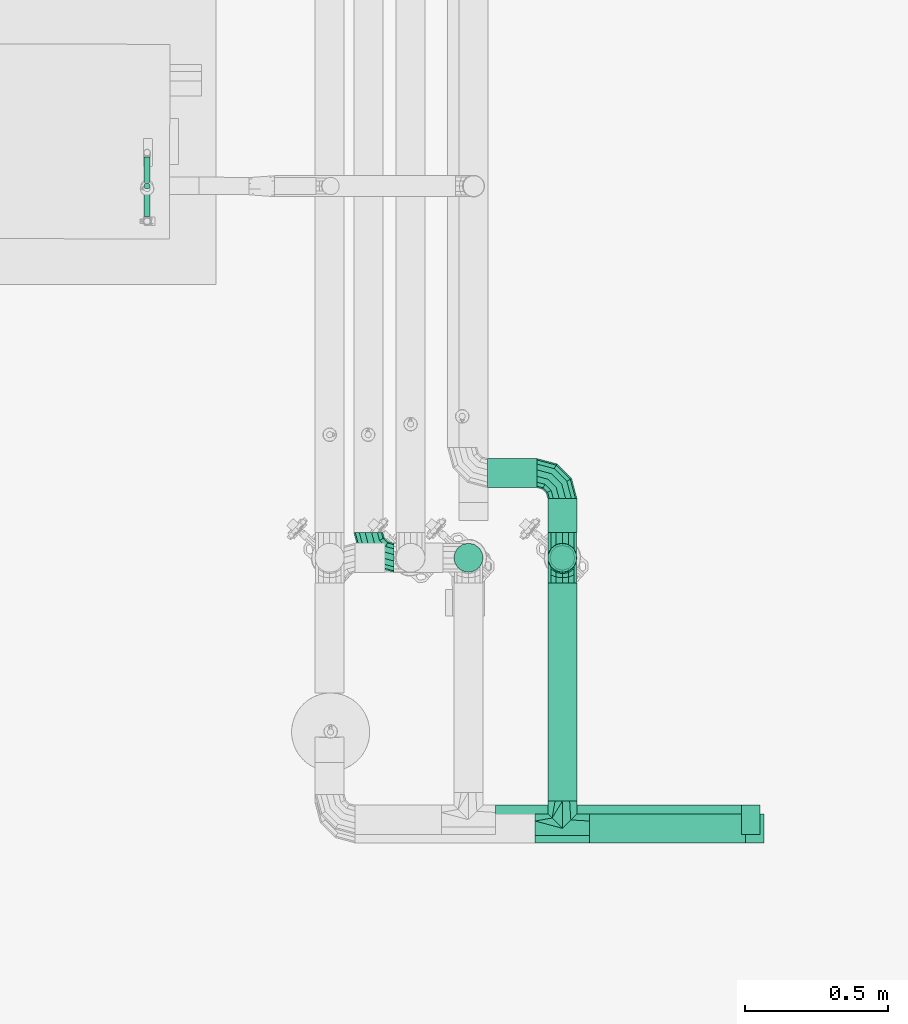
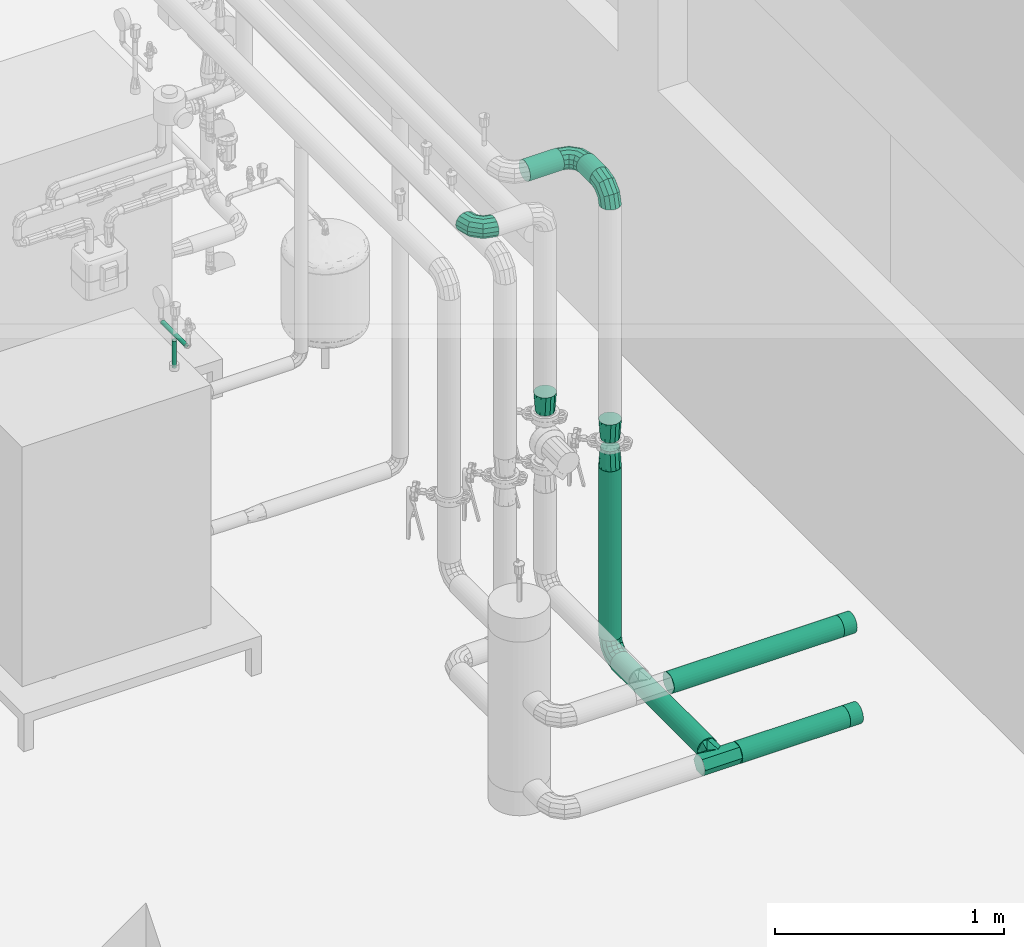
# One storey, part 12 of 43: 10 flow fittings, 8 flow segments.
"""IFC2X3 building model written with IfcOpenShell, lengths in millimetres."""

from ifc_helpers import new_model, entity, si_unit, converted_unit, derived_unit, direction, frame, frame_2d, origin, origin_2d_with_axis, place, context, subcontext, project, spatial, circle, extrude, faceted_brep, source, transform, mapped, material, material_list, type_object, type_shapes, element, save


model = new_model("IFC2X3")

# Units and contexts
model_context = context("Model", 3, precision=0.01, world=origin(), true_north=direction((6.123031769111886e-17, 1.0)))
body_context = subcontext(model_context, "Body", "Model", "MODEL_VIEW")
ifc_project = project(units=[si_unit("LENGTHUNIT", "METRE", prefix="MILLI"), si_unit("AREAUNIT", "SQUARE_METRE"), si_unit("VOLUMEUNIT", "CUBIC_METRE"), converted_unit("PLANEANGLEUNIT", "DEGREE", entity("IfcRatioMeasure", 0.017453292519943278), si_unit("PLANEANGLEUNIT", "RADIAN"), dimensions=[0, 0, 0, 0, 0, 0, 0]), si_unit("MASSUNIT", "GRAM", prefix="KILO"), derived_unit("MASSDENSITYUNIT", [(si_unit("MASSUNIT", "GRAM", prefix="KILO"), 1), (si_unit("LENGTHUNIT", "METRE"), -3)]), derived_unit("MOMENTOFINERTIAUNIT", [(si_unit("LENGTHUNIT", "METRE"), 4)]), si_unit("TIMEUNIT", "SECOND"), si_unit("FREQUENCYUNIT", "HERTZ"), si_unit("THERMODYNAMICTEMPERATUREUNIT", "DEGREE_CELSIUS"), derived_unit("THERMALTRANSMITTANCEUNIT", [(si_unit("MASSUNIT", "GRAM", prefix="KILO"), 1), (si_unit("THERMODYNAMICTEMPERATUREUNIT", "KELVIN"), -1), (si_unit("TIMEUNIT", "SECOND"), -3)]), derived_unit("VOLUMETRICFLOWRATEUNIT", [(si_unit("LENGTHUNIT", "METRE"), 3), (si_unit("TIMEUNIT", "SECOND"), -1)]), derived_unit("MASSFLOWRATEUNIT", [(si_unit("MASSUNIT", "GRAM", prefix="KILO"), 1), (si_unit("TIMEUNIT", "SECOND"), -1)]), derived_unit("ROTATIONALFREQUENCYUNIT", [(si_unit("TIMEUNIT", "SECOND"), -1)]), si_unit("ELECTRICCURRENTUNIT", "AMPERE"), si_unit("ELECTRICVOLTAGEUNIT", "VOLT"), si_unit("POWERUNIT", "WATT"), si_unit("FORCEUNIT", "NEWTON", prefix="KILO"), si_unit("ILLUMINANCEUNIT", "LUX"), si_unit("LUMINOUSFLUXUNIT", "LUMEN"), si_unit("LUMINOUSINTENSITYUNIT", "CANDELA"), derived_unit("USERDEFINED", [(si_unit("MASSUNIT", "GRAM", prefix="KILO"), -1), (si_unit("LENGTHUNIT", "METRE"), -2), (si_unit("TIMEUNIT", "SECOND"), 3), (si_unit("LUMINOUSFLUXUNIT", "LUMEN"), 1)]), derived_unit("SOUNDPOWERUNIT", [(si_unit("MASSUNIT", "GRAM", prefix="KILO"), 1), (si_unit("LENGTHUNIT", "METRE"), 2), (si_unit("TIMEUNIT", "SECOND"), -3)]), derived_unit("SOUNDPRESSUREUNIT", [(si_unit("MASSUNIT", "GRAM", prefix="KILO"), 1), (si_unit("LENGTHUNIT", "METRE"), -1), (si_unit("TIMEUNIT", "SECOND"), -2)]), derived_unit("LINEARVELOCITYUNIT", [(si_unit("LENGTHUNIT", "METRE"), 1), (si_unit("TIMEUNIT", "SECOND"), -1)]), si_unit("PRESSUREUNIT", "PASCAL"), derived_unit("USERDEFINED", [(si_unit("LENGTHUNIT", "METRE"), -2), (si_unit("MASSUNIT", "GRAM", prefix="KILO"), 1), (si_unit("TIMEUNIT", "SECOND"), -2)]), derived_unit("LINEARFORCEUNIT", [(si_unit("MASSUNIT", "GRAM", prefix="KILO"), 1), (si_unit("LENGTHUNIT", "METRE"), 1), (si_unit("TIMEUNIT", "SECOND"), -2), (si_unit("LENGTHUNIT", "METRE"), -1)]), derived_unit("PLANARFORCEUNIT", [(si_unit("MASSUNIT", "GRAM", prefix="KILO"), 1), (si_unit("LENGTHUNIT", "METRE"), 1), (si_unit("TIMEUNIT", "SECOND"), -2), (si_unit("LENGTHUNIT", "METRE"), -2)])], contexts=[model_context])

# Site, building, storey
site_placement = place(None, origin())
site = spatial("IfcSite", under=ifc_project, at=site_placement, Name="Default", CompositionType="ELEMENT")
building_placement = place(site_placement, origin())
building = spatial("IfcBuilding", under=site, at=building_placement, CompositionType="ELEMENT")
storey_placement = place(building_placement, frame((0.0, 0.0, 270.0)))
storey = spatial("IfcBuildingStorey", under=building, at=storey_placement, Name="Niveau 0", CompositionType="ELEMENT", Elevation=270.0)

# Flow segments
pipe_segment_type = type_object("IfcPipeSegmentType", Name="Canalisation:tube acier", PredefinedType="NOTDEFINED")
flow_segment_1_placement = place(storey_placement, origin())
element("IfcFlowSegment", 1, at=flow_segment_1_placement, inside=storey, type_object=pipe_segment_type, Name="Canalisation:tube acier", ObjectType="Canalisation:tube acier", context=body_context, shape_type="SweptSolid", body=[
    extrude(circle(Radius=50.8, at=frame_2d((2.707167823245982e-13, -6.767919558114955e-14), x_axis=(1.0, 0.0))), frame((-1690.0, -13680.499999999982, 271.98835868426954), z_axis=(0.0, 1.0, 0.0), x_axis=(1.0, 0.0, 0.0)), (0.0, 0.0, 1.0), 761.4999999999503),
])
flow_segment_2_placement = place(storey_placement, origin())
element("IfcFlowSegment", 2, at=flow_segment_2_placement, inside=storey, type_object=pipe_segment_type, Name="Canalisation:tube acier", ObjectType="Canalisation:tube acier", context=body_context, shape_type="SweptSolid", body=[
    extrude(circle(Radius=50.8, at=frame_2d((0.0, -6.767919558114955e-14), x_axis=(1.0, 0.0))), frame((-1595.000057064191, -13775.499999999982, 272.09248448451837), z_axis=(1.0, 0.0, 0.0), x_axis=(0.0, 1.0, 0.0)), (0.0, 0.0, 1.0), 545.5060507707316),
])
flow_segment_3_placement = place(storey_placement, origin())
element("IfcFlowSegment", 3, at=flow_segment_3_placement, inside=storey, type_object=pipe_segment_type, Name="Canalisation:tube acier", ObjectType="Canalisation:tube acier", context=body_context, shape_type="SweptSolid", body=[
    extrude(circle(Radius=50.8, at=frame_2d((0.0, -5.414335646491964e-13), x_axis=(1.0, 0.0))), frame((-1951.0, -12534.056656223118, 2751.9883586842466), z_axis=(1.0, 0.0, 0.0), x_axis=(0.0, -1.0, 0.0)), (0.0, 0.0, 1.0), 172.0000000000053),
])
flow_segment_4_placement = place(storey_placement, origin())
element("IfcFlowSegment", 4, at=flow_segment_4_placement, inside=storey, type_object=pipe_segment_type, Name="Canalisation:tube acier", ObjectType="Canalisation:tube acier", context=body_context, shape_type="SweptSolid", body=[
    extrude(circle(Radius=50.8, at=frame_2d((1.1370104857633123e-11, 0.0), x_axis=(1.0, 0.0))), frame((-1690.0, -12741.0, 2751.988358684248), z_axis=(0.0, 1.0, 0.0), x_axis=(-1.0, 0.0, 0.0)), (0.0, 0.0, 1.0), 117.94334377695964),
])
flow_segment_5_placement = place(storey_placement, origin())
element("IfcFlowSegment", 5, at=flow_segment_5_placement, inside=storey, type_object=pipe_segment_type, Name="Canalisation:tube acier", ObjectType="Canalisation:tube acier", context=body_context, shape_type="SweptSolid", body=[
    extrude(circle(Radius=50.8, at=frame_2d((0.0, -1.3536882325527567e-13), x_axis=(1.0, 0.0))), frame((-1063.2631800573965, -13745.499999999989, 741.8842328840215), z_axis=(-0.9999999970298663, 0.0, 7.707313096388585e-05), x_axis=(0.0, -1.0, 0.0)), (0.0, 0.0, 1.0), 860.0000028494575),
])
flow_segment_6_placement = place(storey_placement, origin())
element("IfcFlowSegment", 6, at=flow_segment_6_placement, inside=storey, type_object=pipe_segment_type, Name="Canalisation:tube acier", ObjectType="Canalisation:tube acier", context=body_context, shape_type="SweptSolid", body=[
    extrude(circle(Radius=10.668, at=origin_2d_with_axis()), frame((-3141.4762481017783, -11531.487266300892, 1511.2896512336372)), (0.0, 0.0, 1.0), 143.77838555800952),
])
flow_segment_7_placement = place(storey_placement, origin())
element("IfcFlowSegment", 7, at=flow_segment_7_placement, inside=storey, type_object=pipe_segment_type, Name="Canalisation:tube acier", ObjectType="Canalisation:tube acier", context=body_context, shape_type="SweptSolid", body=[
    extrude(circle(Radius=10.668, at=frame_2d((1.6243006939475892e-12, 0.0), x_axis=(1.0, 0.0))), frame((-3141.4359306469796, -11638.159089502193, 1690.7360367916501), z_axis=(0.0, 1.0, 0.0), x_axis=(-1.0, 0.0, 0.0)), (0.0, 0.0, 1.0), 208.18203125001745),
])
flow_segment_8_placement = place(storey_placement, origin())
element("IfcFlowSegment", 8, at=flow_segment_8_placement, inside=storey, type_object=pipe_segment_type, Name="Canalisation:tube acier", ObjectType="Canalisation:tube acier", context=body_context, shape_type="SweptSolid", body=[
    extrude(circle(Radius=50.8, at=frame_2d((2.707167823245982e-13, 0.0), x_axis=(1.0, 0.0))), frame((-1690.0, -12830.0, 360.9883586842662), z_axis=(0.0, 0.0, 1.0), x_axis=(-1.0, 0.0, 0.0)), (0.0, 0.0, 1.0), 904.5116413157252),
])

# Flow fittings
ifc_material = material(Name="<Unnamed>")
pipe_fitting_type_1 = type_object("IfcPipeFittingType", Name="Chapeau - Générique:Standard", PredefinedType="NOTDEFINED", material=ifc_material)
shared_shape_1 = source(origin(), body_context, "Body", "SweptSolid", [
    extrude(circle(Radius=50.8, at=frame_2d((0.0, -8.206966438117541e-14), x_axis=(1.0, 0.0))), frame((0.0, 0.0, 0.0), z_axis=(1.0, 0.0, 0.0), x_axis=(0.0, 1.0, 0.0)), (0.0, 0.0, 1.0), 64.0),
])
type_shapes(pipe_fitting_type_1, [shared_shape_1])
for number, where in (
    (9, (-1049.4940062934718, -13775.499999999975, 272.2587622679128)),
    (10, (-1063.2631800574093, -13745.499999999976, 741.8842328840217)),
):
    element("IfcFlowFitting", number, at=place(storey_placement, frame(where)), inside=storey, type_object=pipe_fitting_type_1, material=ifc_material, Name="Chapeau - Générique:Standard", ObjectType="Chapeau - Générique:Standard", context=body_context, shape_type="MappedRepresentation", body=[
        mapped(shared_shape_1, transform((0.0, 0.0, 0.0), scale=1.0)),
    ])
pipe_fitting_type_2 = type_object("IfcPipeFittingType", Name="Té - Générique:Standard", PredefinedType="NOTDEFINED", material=ifc_material)
shared_shape_2 = source(origin(), body_context, "Body", "Brep", [
    faceted_brep([(-95.0, -50.80000000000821, 0.0), (-95.0, -42.857433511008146, 13.756928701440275), (-95.0, -38.100000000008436, 21.997045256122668), (-95.0, -25.400000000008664, 43.994090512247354), (-95.0, 0.0, 43.994090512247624), (-95.0, 25.399999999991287, 43.9940905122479), (-95.0, 38.09999999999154, 21.997045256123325), (-95.0, 50.79999999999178, 0.0), (-95.0, 34.91486667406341, -27.513858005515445), (-95.0, 25.399999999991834, -43.994090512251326), (-95.0, 0.0, -43.99409051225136), (-95.0, -25.40000000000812, -43.994090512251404), (-95.0, -38.100000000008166, -21.997045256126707), (95.0, -42.8574338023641, -13.756928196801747), (95.0, -38.10000000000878, -21.997045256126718), (95.0, -25.40000000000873, -43.994090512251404), (95.0, 0.0, -43.99409051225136), (95.0, 25.399999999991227, -43.994090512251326), (95.0, 38.099999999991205, -21.997045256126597), (95.0, 50.79999999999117, 0.0), (95.0, 34.914867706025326, 27.513856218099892), (95.0, 25.399999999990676, 43.9940905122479), (95.0, 0.0, 43.994090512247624), (95.0, -25.40000000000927, 43.994090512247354), (95.0, -38.10000000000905, 21.99704525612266), (95.0, -50.80000000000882, 0.0), (43.39269796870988, -43.39269796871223, 17.928268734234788), (35.985395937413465, -35.985395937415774, 35.856537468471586), (0.0, 0.0, 50.79999999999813), (-36.22103848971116, -36.22103848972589, 28.26809021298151), (-29.453595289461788, -29.45359528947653, 41.38992298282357), (50.8000000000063, -50.80000000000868, 0.0), (-50.799999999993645, -50.80000000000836, 0.0), (-43.5105192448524, -43.51051924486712, 14.134045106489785), (-40.126797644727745, -40.126797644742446, 20.69496149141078), (36.2210385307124, -36.221038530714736, -28.268090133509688), (-43.39269796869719, -43.39269796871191, -17.92826873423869), (0.0, 0.0, -50.800000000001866), (-35.985395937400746, -35.98539593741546, -35.856537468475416), (43.51051926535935, -43.51051926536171, -14.13404506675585), (40.126797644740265, -40.1267976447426, -20.69496149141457), (29.453595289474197, -29.453595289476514, -41.389922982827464), (25.40000000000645, -95.0, -43.994090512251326), (34.91486744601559, -95.0, -27.513856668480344), (50.800000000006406, -95.0, 0.0), (38.10000000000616, -95.0, 21.99704525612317), (25.4000000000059, -95.0, 43.9940905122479), (0.0, -95.0, 43.994090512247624), (-25.399999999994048, -95.0, 43.994090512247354), (-34.91486766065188, -95.0, 27.513856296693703), (-50.799999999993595, -95.0, 0.0), (-38.09999999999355, -95.0, -21.997045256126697), (-25.399999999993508, -95.0, -43.994090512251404), (0.0, -95.0, -43.99409051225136)], [[[0, 1, 2, 3, 4, 5, 6, 7, 8, 9, 10, 11, 12]], [[13, 14, 15, 16, 17, 18, 19, 20, 21, 22, 23, 24, 25]], [[24, 26, 25]], [[24, 27, 26]], [[27, 24, 23]], [[28, 23, 22, 21]], [[3, 29, 30]], [[25, 26, 31]], [[0, 32, 1]], [[2, 1, 33]], [[23, 28, 27]], [[19, 7, 6, 5, 21, 20]], [[3, 28, 5, 4]], [[3, 30, 28]], [[1, 32, 33]], [[5, 28, 21]], [[2, 33, 34, 29]], [[29, 3, 2]], [[17, 9, 8, 7, 19, 18]], [[35, 15, 14]], [[0, 36, 32]], [[9, 17, 37]], [[12, 38, 36]], [[10, 9, 37, 11]], [[14, 39, 40, 35]], [[37, 17, 16, 15]], [[31, 13, 25]], [[13, 31, 39]], [[35, 41, 15]], [[38, 11, 37]], [[12, 36, 0]], [[14, 13, 39]], [[38, 12, 11]], [[15, 41, 37]], [[42, 43, 44, 45, 46, 47, 48, 49, 50, 51, 52, 53]], [[30, 49, 48]], [[50, 49, 34]], [[50, 34, 33, 32]], [[30, 48, 47]], [[27, 46, 45]], [[31, 45, 44]], [[49, 30, 29, 34]], [[30, 47, 28]], [[45, 31, 26, 27]], [[47, 46, 27]], [[47, 27, 28]], [[41, 43, 42]], [[53, 38, 37]], [[43, 41, 35, 40]], [[44, 40, 39, 31]], [[41, 42, 53]], [[32, 51, 50]], [[44, 43, 40]], [[38, 52, 51]], [[41, 53, 37]], [[51, 32, 36, 38]], [[53, 52, 38]]]),
])
type_shapes(pipe_fitting_type_2, [shared_shape_2])
flow_fitting_placement = place(storey_placement, frame((-1690.0, -13775.5, 271.98835868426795), z_axis=(0.0010960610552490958, 0.0, -0.9999993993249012), x_axis=(0.9999993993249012, 0.0, 0.0010960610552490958)))
element("IfcFlowFitting", 11, at=flow_fitting_placement, inside=storey, type_object=pipe_fitting_type_2, material=ifc_material, Name="Té - Générique:Standard", ObjectType="Té - Générique:Standard", context=body_context, shape_type="MappedRepresentation", body=[
    mapped(shared_shape_2, transform((0.0, 0.0, 0.0), scale=1.0)),
])
ifc_material_list = material_list([ifc_material, ifc_material])
pipe_fitting_type_3 = type_object("IfcPipeFittingType", Name="Coude - Générique:Standard", PredefinedType="NOTDEFINED", material=ifc_material_list)
shared_shape_3 = source(origin(), body_context, "Body", "Brep", [
    faceted_brep([(32.07035144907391, 19.099999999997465, 0.0), (27.713566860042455, 21.615390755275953, -22.04129394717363), (45.76921848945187, 89.0, -22.04129394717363), (50.80000000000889, 89.0, 0.0), (15.506127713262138, 28.663359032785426, -39.71703930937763), (31.67328193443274, 89.0, -39.71703930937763), (-2.1341329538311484, 38.84796827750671, -49.52633793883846), (11.304063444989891, 89.0, -49.52633793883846), (-21.713345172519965, 50.15203172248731, -49.526337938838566), (-11.304063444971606, 89.0, -49.526337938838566), (-39.35360583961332, 60.33664096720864, -39.71703930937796), (-31.67328193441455, 89.0, -39.71703930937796), (-51.56104498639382, 67.3846092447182, -22.041293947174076), (-45.769218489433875, 89.0, -22.041293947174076), (-55.91782957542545, 69.89999999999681, 0.0), (-50.79999999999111, 89.0, 0.0), (-51.56104498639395, 67.38460924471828, 22.041293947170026), (-45.76921848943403, 89.0, 22.041293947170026), (-39.35360583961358, 60.33664096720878, 39.71703930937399), (-31.673281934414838, 89.0, 39.71703930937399), (-21.713345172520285, 50.15203172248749, 49.52633793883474), (-11.304063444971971, 89.0, 49.52633793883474), (-2.134132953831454, 38.84796827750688, 49.52633793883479), (11.304063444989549, 89.0, 49.52633793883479), (15.506127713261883, 28.663359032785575, 39.71703930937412), (31.673281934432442, 89.0, 39.71703930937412), (27.713566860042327, 21.615390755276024, 22.04129394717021), (45.76921848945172, 89.0, 22.04129394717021), (-19.099999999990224, -32.07035144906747, 0.0), (-21.61539075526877, -27.713566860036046, -22.04129394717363), (-28.663359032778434, -15.506127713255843, -39.71703930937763), (-38.847968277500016, 2.1341329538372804, -49.52633793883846), (-50.15203172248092, 21.71334517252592, -49.526337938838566), (-60.33664096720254, 39.35360583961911, -39.71703930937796), (-67.38460924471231, 51.56104498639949, -22.041293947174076), (-69.89999999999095, 55.91782957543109, 0.0), (-67.3846092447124, 51.56104498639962, 22.041293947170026), (-60.33664096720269, 39.353605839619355, 39.71703930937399), (-50.152031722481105, 21.71334517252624, 49.52633793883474), (-38.84796827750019, 2.134132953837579, 49.52633793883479), (-28.663359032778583, -15.506127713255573, 39.71703930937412), (-21.61539075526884, -27.713566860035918, 22.04129394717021), (-89.0, -50.80000000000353, 0.0), (-89.0, -45.769218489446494, -22.04129394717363), (-89.0, -31.673281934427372, -39.71703930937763), (-89.0, -11.304063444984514, -49.52633793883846), (-89.0, 11.304063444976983, -49.526337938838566), (-89.0, 31.673281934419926, -39.71703930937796), (-89.0, 45.769218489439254, -22.041293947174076), (-89.0, 50.79999999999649, 0.0), (-89.0, 45.76921848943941, 22.041293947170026), (-89.0, 31.673281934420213, 39.71703930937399), (-89.0, 11.304063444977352, 49.52633793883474), (-89.0, -11.304063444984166, 49.52633793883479), (-89.0, -31.673281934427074, 39.71703930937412), (-89.0, -45.76921848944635, 22.04129394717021)], [[[0, 1, 2, 3]], [[1, 4, 5, 2]], [[4, 6, 7, 5]], [[6, 8, 9, 7]], [[8, 10, 11, 9]], [[10, 12, 13, 11]], [[12, 14, 15, 13]], [[14, 16, 17, 15]], [[16, 18, 19, 17]], [[18, 20, 21, 19]], [[20, 22, 23, 21]], [[22, 24, 25, 23]], [[24, 26, 27, 25]], [[26, 0, 3, 27]], [[28, 29, 1, 0]], [[29, 30, 4, 1]], [[30, 31, 6, 4]], [[31, 32, 8, 6]], [[32, 33, 10, 8]], [[33, 34, 12, 10]], [[34, 35, 14, 12]], [[35, 36, 16, 14]], [[36, 37, 18, 16]], [[37, 38, 20, 18]], [[38, 39, 22, 20]], [[39, 40, 24, 22]], [[40, 41, 26, 24]], [[41, 28, 0, 26]], [[42, 43, 29, 28]], [[43, 44, 30, 29]], [[44, 45, 31, 30]], [[45, 46, 32, 31]], [[46, 47, 33, 32]], [[47, 48, 34, 33]], [[48, 49, 35, 34]], [[49, 50, 36, 35]], [[50, 51, 37, 36]], [[51, 52, 38, 37]], [[52, 53, 39, 38]], [[53, 54, 40, 39]], [[54, 55, 41, 40]], [[55, 42, 28, 41]], [[3, 2, 5, 7, 9, 11, 13, 15, 17, 19, 21, 23, 25, 27]], [[55, 54, 53, 52, 51, 50, 49, 48, 47, 46, 45, 44, 43, 42]]]),
])
type_shapes(pipe_fitting_type_3, [shared_shape_3])
for number, where, z_axis, x_axis in (
    (12, (-1690.0, -12830.0, 271.98835868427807), (1.0, 0.0, 0.0), (0.0, 1.0, 0.0)),
    (13, (-1690.0, -12830.0, 2751.9883586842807), (-1.0, 0.0, 0.0), (0.0, 0.0, 1.0)),
    (14, (-1690.0, -12534.056656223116, 2751.9883586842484), (0.0, 0.0, 1.0), (0.0, 1.0, 0.0)),
    (15, (-2368.263180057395, -12830.0, 2751.966330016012), (-1.2010059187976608e-06, -3.522051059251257e-06, 1.0), (0.0, -1.0, -3.522051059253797e-06)),
):
    element("IfcFlowFitting", number, at=place(storey_placement, frame(where, z_axis=z_axis, x_axis=x_axis)), inside=storey, type_object=pipe_fitting_type_3, material=ifc_material, Name="Coude - Générique:Standard", ObjectType="Coude - Générique:Standard", context=body_context, shape_type="MappedRepresentation", body=[
        mapped(shared_shape_3, transform((0.0, 0.0, 0.0), scale=1.0)),
    ])
pipe_fitting_type_4 = type_object("IfcPipeFittingType", Name="Transformation - Générique:Standard", PredefinedType="NOTDEFINED", material=ifc_material)
shared_shape_4 = source(origin(), body_context, "Body", "Brep", [
    faceted_brep([(102.0, -43.30898437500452, 0.0), (102.0, -40.40783252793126, -10.82724609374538), (102.0, -37.506680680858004, -21.654492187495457), (102.0, -29.58058643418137, -29.580586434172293), (102.0, -21.654492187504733, -37.50668068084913), (102.0, -10.827246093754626, -40.40783252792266), (102.0, 0.0, -43.30898437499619), (102.0, 10.827246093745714, -40.407832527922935), (102.0, 21.654492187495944, -37.506680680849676), (102.0, 29.580586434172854, -29.58058643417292), (102.0, 37.506680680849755, -21.654492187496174), (102.0, 40.407832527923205, -10.827246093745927), (102.0, 43.308984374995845, 0.0), (102.0, 40.407832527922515, 10.827246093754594), (102.0, 37.50668068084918, 21.654492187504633), (102.0, 29.580586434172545, 29.580586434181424), (102.0, 21.65449218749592, 37.50668068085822), (102.0, 10.827246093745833, 40.407832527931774), (102.0, 0.0, 43.30898437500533), (102.0, -10.827246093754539, 40.40783252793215), (102.0, -21.654492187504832, 37.50668068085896), (102.0, -29.58058643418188, 29.580586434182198), (102.0, -37.50668068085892, 21.654492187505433), (102.0, -40.407832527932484, 10.827246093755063), (0.0, -45.769218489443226, -22.041293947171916), (0.0, -48.284609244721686, -11.020646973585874), (0.0, -50.800000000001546, 0.0), (0.0, -48.284609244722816, 11.020646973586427), (0.0, -45.76921848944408, 22.04129394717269), (0.0, -38.721250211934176, 30.879166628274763), (0.0, -31.673281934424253, 39.71703930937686), (0.0, -21.488672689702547, 44.621688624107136), (0.0, -11.304063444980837, 49.52633793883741), (0.0, 0.0, 49.52633793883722), (0.0, 11.30406344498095, 49.526337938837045), (0.0, 21.488672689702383, 44.621688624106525), (0.0, 31.673281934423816, 39.717039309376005), (0.0, 38.72125021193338, 30.87916662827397), (0.0, 45.769218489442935, 22.04129394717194), (0.0, 48.284609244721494, 11.02064697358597), (0.0, 50.800000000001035, 0.0), (0.0, 48.28460924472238, -11.020646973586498), (0.0, 45.76921848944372, -22.041293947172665), (0.0, 38.721250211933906, -30.879166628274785), (0.0, 31.67328193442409, -39.717039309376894), (0.0, 21.48867268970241, -44.62168862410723), (0.0, 11.304063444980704, -49.526337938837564), (0.0, 0.0, -49.52633793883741), (0.0, -11.304063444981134, -49.52633793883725), (0.0, -21.48867268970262, -44.62168862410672), (0.0, -31.67328193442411, -39.71703930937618), (0.0, -38.721250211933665, -30.879166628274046)], [[[0, 1, 2, 3, 4, 5, 6, 7, 8, 9, 10, 11, 12, 13, 14, 15, 16, 17, 18, 19, 20, 21, 22, 23]], [[24, 25, 26, 27, 28, 29, 30, 31, 32, 33, 34, 35, 36, 37, 38, 39, 40, 41, 42, 43, 44, 45, 46, 47, 48, 49, 50, 51]], [[45, 44, 8]], [[11, 42, 41]], [[43, 42, 10]], [[10, 42, 11]], [[45, 7, 46]], [[0, 25, 1]], [[9, 8, 44]], [[6, 48, 47, 46]], [[4, 50, 49]], [[50, 4, 3]], [[49, 5, 4]], [[25, 0, 26]], [[7, 6, 46]], [[51, 2, 24]], [[9, 44, 43]], [[12, 41, 40]], [[49, 48, 5]], [[12, 11, 41]], [[24, 2, 1]], [[2, 51, 3]], [[10, 9, 43]], [[7, 45, 8]], [[48, 6, 5]], [[51, 50, 3]], [[25, 24, 1]], [[31, 30, 20]], [[23, 28, 27]], [[29, 28, 22]], [[22, 28, 23]], [[31, 19, 32]], [[12, 39, 13]], [[21, 20, 30]], [[18, 34, 33, 32]], [[16, 36, 35]], [[36, 16, 15]], [[35, 17, 16]], [[39, 12, 40]], [[19, 18, 32]], [[37, 14, 38]], [[21, 30, 29]], [[0, 27, 26]], [[35, 34, 17]], [[0, 23, 27]], [[38, 14, 13]], [[14, 37, 15]], [[22, 21, 29]], [[19, 31, 20]], [[34, 18, 17]], [[37, 36, 15]], [[39, 38, 13]]]),
])
type_shapes(pipe_fitting_type_4, [shared_shape_4])
for number, where, z_axis, x_axis in (
    (16, (-1690.0, -12830.0, 1265.4999999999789), (-1.0, 0.0, 0.0), (0.0, 0.0, 1.0)),
    (17, (-1690.0, -12830.0, 1515.5000000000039), (-1.0, 0.0, 0.0), (0.0, 0.0, -1.0)),
    (18, (-2018.2631800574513, -12830.0, 1774.4161531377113), (-1.0, 0.0, 0.0), (0.0, 0.0, -1.0)),
):
    element("IfcFlowFitting", number, at=place(storey_placement, frame(where, z_axis=z_axis, x_axis=x_axis)), inside=storey, type_object=pipe_fitting_type_4, material=ifc_material, Name="Transformation - Générique:Standard", ObjectType="Transformation - Générique:Standard", context=body_context, shape_type="MappedRepresentation", body=[
        mapped(shared_shape_4, transform((0.0, 0.0, 0.0), scale=1.0)),
    ])

save(model, "model.ifc")
